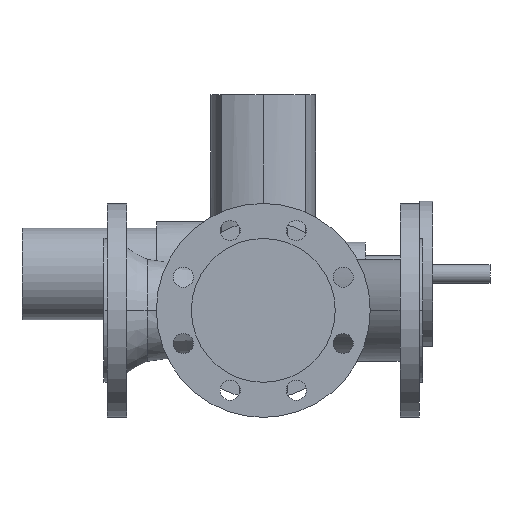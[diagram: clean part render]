
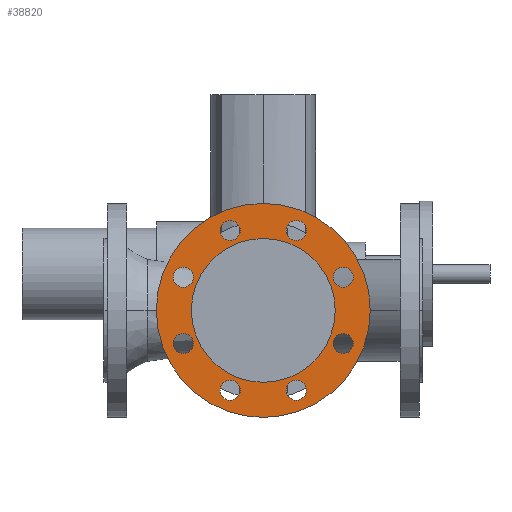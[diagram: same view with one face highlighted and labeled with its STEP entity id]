
A CAD part, front view. The second image highlights one B-rep face of the part: STEP entity #38820.
In plain terms, the highlighted planar face has unit normal (0, -1, 0).
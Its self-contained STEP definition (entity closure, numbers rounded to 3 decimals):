
#3400=CARTESIAN_POINT('',(254.,-146.5,0.));
#3410=VERTEX_POINT('',#3400);
#3590=CARTESIAN_POINT('',(96.,-146.5,0.));
#3600=VERTEX_POINT('',#3590);
#3630=CARTESIAN_POINT('',(175.,-146.5,0.));
#3640=DIRECTION('',(0.,-1.,0.));
#3650=DIRECTION('',(1.,0.,0.));
#3660=AXIS2_PLACEMENT_3D('',#3630,#3640,#3650);
#3670=CIRCLE('',#3660,79.);
#3680=EDGE_CURVE('',#3410,#3600,#3670,.T.);
#11010=CARTESIAN_POINT('',(292.5,-146.5,0.));
#11020=VERTEX_POINT('',#11010);
#11050=CARTESIAN_POINT('',(175.,-146.5,0.));
#11060=DIRECTION('',(0.,1.,0.));
#11070=DIRECTION('',(1.,0.,0.));
#11080=AXIS2_PLACEMENT_3D('',#11050,#11060,#11070);
#11090=CIRCLE('',#11080,117.5);
#11100=CARTESIAN_POINT('',(57.5,-146.5,0.));
#11110=VERTEX_POINT('',#11100);
#11120=EDGE_CURVE('',#11110,#11020,#11090,.T.);
#11430=CARTESIAN_POINT('',(251.769,-146.5,-36.355));
#11440=VERTEX_POINT('',#11430);
#11470=CARTESIAN_POINT('',(262.769,-146.5,-36.355));
#11480=DIRECTION('',(0.,1.,0.));
#11490=DIRECTION('',(1.,0.,0.));
#11500=AXIS2_PLACEMENT_3D('',#11470,#11480,#11490);
#11510=CIRCLE('',#11500,11.);
#11520=CARTESIAN_POINT('',(273.769,-146.5,-36.355));
#11530=VERTEX_POINT('',#11520);
#11540=EDGE_CURVE('',#11440,#11530,#11510,.T.);
#11850=CARTESIAN_POINT('',(273.769,-146.5,36.355));
#11860=VERTEX_POINT('',#11850);
#12020=CARTESIAN_POINT('',(251.769,-146.5,36.355));
#12030=VERTEX_POINT('',#12020);
#12060=CARTESIAN_POINT('',(262.769,-146.5,36.355));
#12070=DIRECTION('',(0.,1.,0.));
#12080=DIRECTION('',(1.,0.,0.));
#12090=AXIS2_PLACEMENT_3D('',#12060,#12070,#12080);
#12100=CIRCLE('',#12090,11.);
#12110=EDGE_CURVE('',#12030,#11860,#12100,.T.);
#12270=CARTESIAN_POINT('',(200.355,-146.5,-87.769));
#12280=VERTEX_POINT('',#12270);
#12310=CARTESIAN_POINT('',(211.355,-146.5,-87.769));
#12320=DIRECTION('',(0.,1.,0.));
#12330=DIRECTION('',(1.,0.,0.));
#12340=AXIS2_PLACEMENT_3D('',#12310,#12320,#12330);
#12350=CIRCLE('',#12340,11.);
#12360=CARTESIAN_POINT('',(222.355,-146.5,-87.769));
#12370=VERTEX_POINT('',#12360);
#12380=EDGE_CURVE('',#12280,#12370,#12350,.T.);
#12690=CARTESIAN_POINT('',(200.355,-146.5,87.769));
#12700=VERTEX_POINT('',#12690);
#12860=CARTESIAN_POINT('',(222.355,-146.5,87.769));
#12870=VERTEX_POINT('',#12860);
#12900=CARTESIAN_POINT('',(211.355,-146.5,87.769));
#12910=DIRECTION('',(0.,1.,0.));
#12920=DIRECTION('',(1.,0.,0.));
#12930=AXIS2_PLACEMENT_3D('',#12900,#12910,#12920);
#12940=CIRCLE('',#12930,11.);
#12950=EDGE_CURVE('',#12870,#12700,#12940,.T.);
#13110=CARTESIAN_POINT('',(127.645,-146.5,-87.769));
#13120=VERTEX_POINT('',#13110);
#13150=CARTESIAN_POINT('',(138.645,-146.5,-87.769));
#13160=DIRECTION('',(0.,1.,0.));
#13170=DIRECTION('',(1.,0.,0.));
#13180=AXIS2_PLACEMENT_3D('',#13150,#13160,#13170);
#13190=CIRCLE('',#13180,11.);
#13200=CARTESIAN_POINT('',(149.645,-146.5,-87.769));
#13210=VERTEX_POINT('',#13200);
#13220=EDGE_CURVE('',#13120,#13210,#13190,.T.);
#13530=CARTESIAN_POINT('',(149.645,-146.5,87.769));
#13540=VERTEX_POINT('',#13530);
#13570=CARTESIAN_POINT('',(138.645,-146.5,87.769));
#13580=DIRECTION('',(0.,1.,0.));
#13590=DIRECTION('',(1.,0.,0.));
#13600=AXIS2_PLACEMENT_3D('',#13570,#13580,#13590);
#13610=CIRCLE('',#13600,11.);
#13620=CARTESIAN_POINT('',(127.645,-146.5,87.769));
#13630=VERTEX_POINT('',#13620);
#13640=EDGE_CURVE('',#13540,#13630,#13610,.T.);
#13950=CARTESIAN_POINT('',(76.231,-146.5,-36.355));
#13960=VERTEX_POINT('',#13950);
#14120=CARTESIAN_POINT('',(98.231,-146.5,-36.355));
#14130=VERTEX_POINT('',#14120);
#14160=CARTESIAN_POINT('',(87.231,-146.5,-36.355));
#14170=DIRECTION('',(0.,1.,0.));
#14180=DIRECTION('',(1.,0.,0.));
#14190=AXIS2_PLACEMENT_3D('',#14160,#14170,#14180);
#14200=CIRCLE('',#14190,11.);
#14210=EDGE_CURVE('',#14130,#13960,#14200,.T.);
#14370=CARTESIAN_POINT('',(98.231,-146.5,36.355));
#14380=VERTEX_POINT('',#14370);
#14410=CARTESIAN_POINT('',(87.231,-146.5,36.355));
#14420=DIRECTION('',(0.,1.,0.));
#14430=DIRECTION('',(1.,0.,0.));
#14440=AXIS2_PLACEMENT_3D('',#14410,#14420,#14430);
#14450=CIRCLE('',#14440,11.);
#14460=CARTESIAN_POINT('',(76.231,-146.5,36.355));
#14470=VERTEX_POINT('',#14460);
#14480=EDGE_CURVE('',#14380,#14470,#14450,.T.);
#38270=CARTESIAN_POINT('',(175.,-146.5,0.));
#38280=DIRECTION('',(0.,1.,0.));
#38290=DIRECTION('',(0.,0.,1.));
#38300=AXIS2_PLACEMENT_3D('',#38270,#38280,#38290);
#38310=PLANE('',#38300);
#38320=EDGE_CURVE('',#14470,#14380,#14450,.T.);
#38330=ORIENTED_EDGE('',*,*,#38320,.T.);
#38340=ORIENTED_EDGE('',*,*,#14480,.T.);
#38350=EDGE_LOOP('',(#38340,#38330));
#38360=FACE_BOUND('',#38350,.T.);
#38370=EDGE_CURVE('',#13960,#14130,#14200,.T.);
#38380=ORIENTED_EDGE('',*,*,#38370,.T.);
#38390=ORIENTED_EDGE('',*,*,#14210,.T.);
#38400=EDGE_LOOP('',(#38390,#38380));
#38410=FACE_BOUND('',#38400,.T.);
#38420=ORIENTED_EDGE('',*,*,#13640,.T.);
#38430=EDGE_CURVE('',#13630,#13540,#13610,.T.);
#38440=ORIENTED_EDGE('',*,*,#38430,.T.);
#38450=EDGE_LOOP('',(#38440,#38420));
#38460=FACE_BOUND('',#38450,.T.);
#38470=ORIENTED_EDGE('',*,*,#13220,.T.);
#38480=EDGE_CURVE('',#13210,#13120,#13190,.T.);
#38490=ORIENTED_EDGE('',*,*,#38480,.T.);
#38500=EDGE_LOOP('',(#38490,#38470));
#38510=FACE_BOUND('',#38500,.T.);
#38520=EDGE_CURVE('',#12700,#12870,#12940,.T.);
#38530=ORIENTED_EDGE('',*,*,#38520,.T.);
#38540=ORIENTED_EDGE('',*,*,#12950,.T.);
#38550=EDGE_LOOP('',(#38540,#38530));
#38560=FACE_BOUND('',#38550,.T.);
#38570=EDGE_CURVE('',#12370,#12280,#12350,.T.);
#38580=ORIENTED_EDGE('',*,*,#38570,.T.);
#38590=ORIENTED_EDGE('',*,*,#12380,.T.);
#38600=EDGE_LOOP('',(#38590,#38580));
#38610=FACE_BOUND('',#38600,.T.);
#38620=EDGE_CURVE('',#11860,#12030,#12100,.T.);
#38630=ORIENTED_EDGE('',*,*,#38620,.T.);
#38640=ORIENTED_EDGE('',*,*,#12110,.T.);
#38650=EDGE_LOOP('',(#38640,#38630));
#38660=FACE_BOUND('',#38650,.T.);
#38670=EDGE_CURVE('',#11530,#11440,#11510,.T.);
#38680=ORIENTED_EDGE('',*,*,#38670,.T.);
#38690=ORIENTED_EDGE('',*,*,#11540,.T.);
#38700=EDGE_LOOP('',(#38690,#38680));
#38710=FACE_BOUND('',#38700,.T.);
#38720=ORIENTED_EDGE('',*,*,#11120,.F.);
#38730=EDGE_CURVE('',#11020,#11110,#11090,.T.);
#38740=ORIENTED_EDGE('',*,*,#38730,.F.);
#38750=EDGE_LOOP('',(#38740,#38720));
#38760=FACE_OUTER_BOUND('',#38750,.T.);
#38770=EDGE_CURVE('',#3600,#3410,#3670,.T.);
#38780=ORIENTED_EDGE('',*,*,#38770,.F.);
#38790=ORIENTED_EDGE('',*,*,#3680,.F.);
#38800=EDGE_LOOP('',(#38790,#38780));
#38810=FACE_BOUND('',#38800,.T.);
#38820=ADVANCED_FACE('',(#38360,#38410,#38460,#38510,#38560,#38610,
#38660,#38710,#38760,#38810),#38310,.F.);
